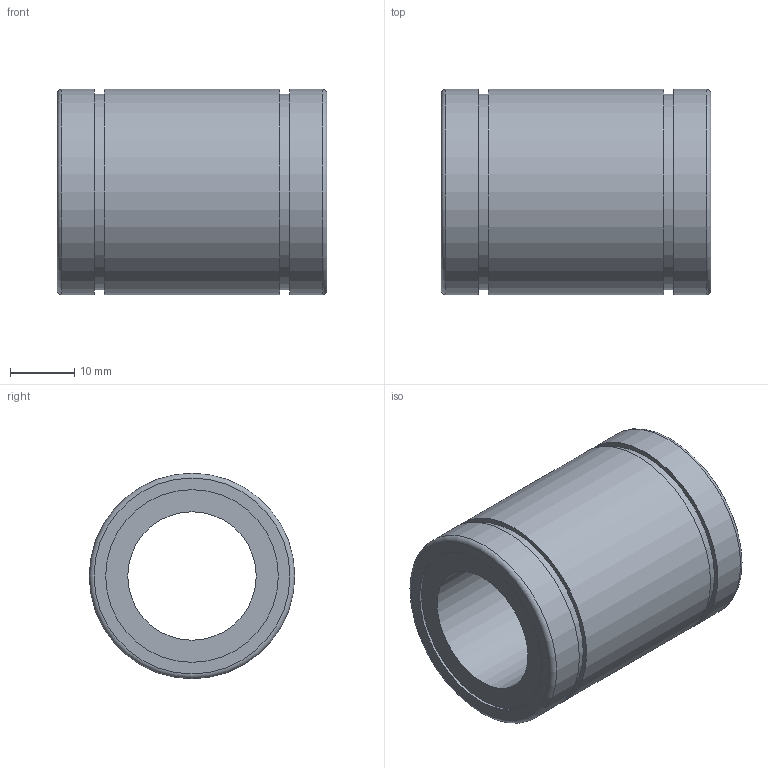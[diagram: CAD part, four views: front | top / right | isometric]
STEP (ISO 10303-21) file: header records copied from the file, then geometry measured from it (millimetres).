
FILE_DESCRIPTION(/* description */ ('STEP AP214'),/* implementation_level */ '2;1');
FILE_NAME(/* name */ '\\JOINapp01\Profiles\martins\Desktop\rolamento\LM20UU.step',/* time_stamp */ '2018-02-15T09:56:19-02:00',/* author */ ('martins'),/* organization */ ('TraceParts S.A.'),/* preprocessor_version */ 'ST-DEVELOPER v16.1',/* originating_system */ 'Autodesk Inventor 2016',/* authorisation */ ' ');
FILE_SCHEMA (('AUTOMOTIVE_DESIGN { 1 0 10303 214 3 1 1 }'));
Length unit declared in the file: millimetre
Products named in the file (2): lm20uu; Assembly11
Assembly tree (1 placements, depth 2):
  Assembly11
    lm20uu
Bounding box: 42 x 32 x 32 mm (x, y, z)
Volume: 20109.9 mm3; surface area: 8085.8 mm2
Topology: 1 solids, 1 shells, 189 faces, 502 edges, 335 vertices
Faces by surface type: plane 124, bspline 55, cylinder 8, torus 2
Full cylindrical faces by diameter (mm): 20 x1, 26.88 x2, 30.5 x2, 32 x3
Entity records: 6287 total; most frequent: CARTESIAN_POINT 1890, ORIENTED_EDGE 978, DIRECTION 671, EDGE_CURVE 489, LINE 361, VECTOR 361, VERTEX_POINT 332, EDGE_LOOP 221
